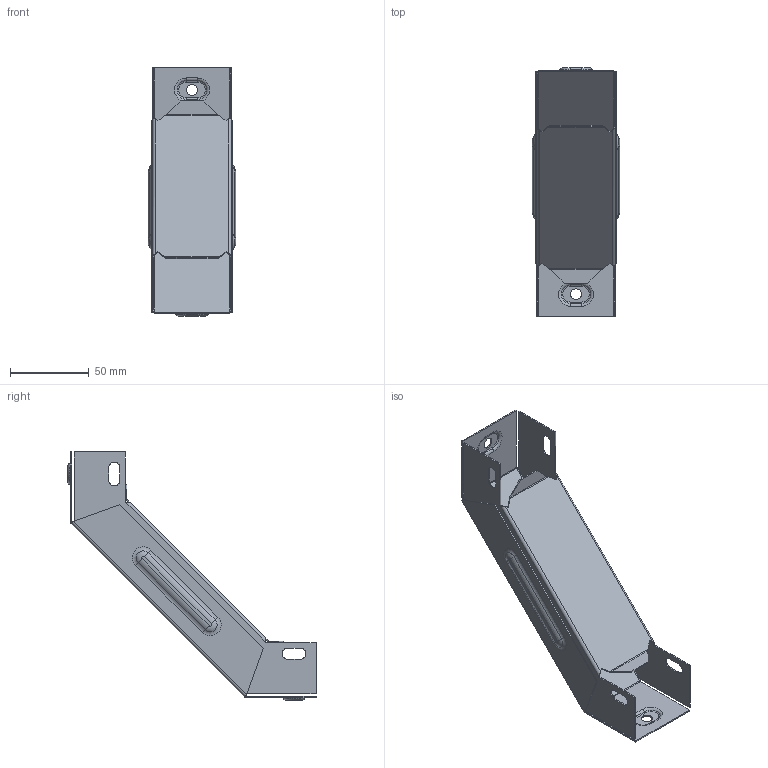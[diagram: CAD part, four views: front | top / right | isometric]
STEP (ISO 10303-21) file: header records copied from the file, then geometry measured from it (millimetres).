
FILE_DESCRIPTION (( 'STEP AP214' ), '1' );
FILE_NAME ('vo903550_捘.STEP', '2019-06-10T09:06:29', ( '砐錪賧瘔蠈錪 Windows' ), ( '' ), 'SwSTEP 2.0', 'SolidWorks 2018', '' );
FILE_SCHEMA (( 'AUTOMOTIVE_DESIGN' ));
Length unit declared in the file: millimetre
Products named in the file (1): vo903550_捘
Bounding box: 55.6 x 157.32 x 157.32 mm (x, y, z)
Volume: 32912.1 mm3; surface area: 83672.6 mm2
Topology: 2 solids, 2 shells, 222 faces, 514 edges, 308 vertices
Faces by surface type: plane 88, cylinder 78, torus 48, bspline 8
Entity records: 6465 total; most frequent: CARTESIAN_POINT 1293, DIRECTION 1124, ORIENTED_EDGE 1028, EDGE_CURVE 514, AXIS2_PLACEMENT_3D 427, VERTEX_POINT 308, LINE 270, VECTOR 270
